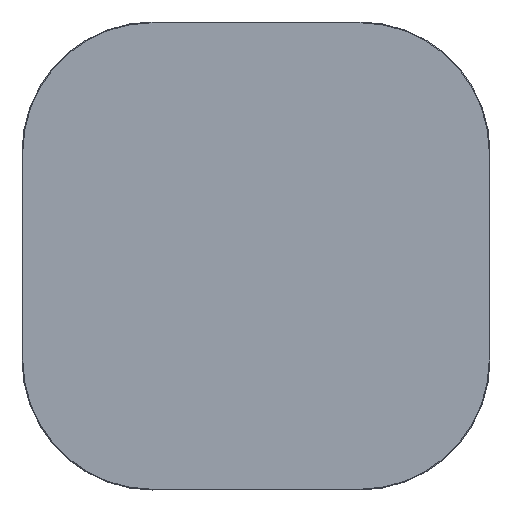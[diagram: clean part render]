
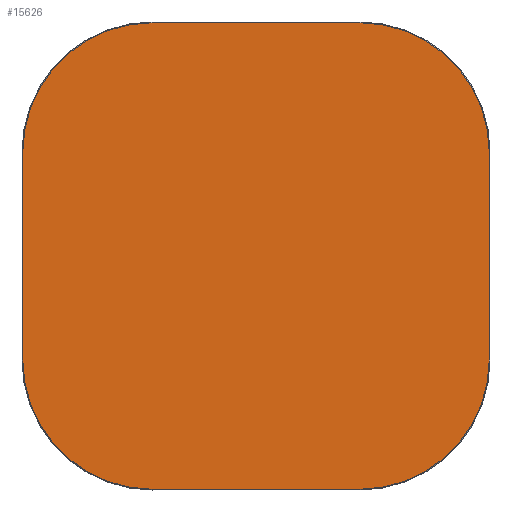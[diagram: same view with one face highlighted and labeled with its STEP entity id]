
A CAD part, top view. The second image highlights one B-rep face of the part: STEP entity #15626.
In plain terms, the highlighted planar face has unit normal (0, 0, 1).
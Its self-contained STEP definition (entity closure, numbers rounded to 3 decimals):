
#15551=CARTESIAN_POINT('',(0.,0.,20.));
#15552=DIRECTION('',(1.,0.,0.));
#15553=DIRECTION('',(0.,0.,1.));
#15554=AXIS2_PLACEMENT_3D('',#15551,#15553,#15552);
#15555=PLANE('',#15554);
#15556=CARTESIAN_POINT('',(-200.,-448.5,20.));
#15557=VERTEX_POINT('',#15556);
#15558=CARTESIAN_POINT('',(200.,-448.5,20.));
#15559=VERTEX_POINT('',#15558);
#15560=CARTESIAN_POINT('',(-200.,-448.5,20.));
#15561=DIRECTION('',(1.,0.,0.));
#15562=VECTOR('',#15561,400.);
#15563=LINE('',#15560,#15562);
#15564=EDGE_CURVE('',#15557,#15559,#15563,.T.);
#15565=ORIENTED_EDGE('E105',*,*,#15564,.T.);
#15566=CARTESIAN_POINT('',(448.5,-200.,20.));
#15567=VERTEX_POINT('',#15566);
#15568=CARTESIAN_POINT('',(200.,-200.,20.));
#15569=DIRECTION('',(0.,-1.,0.));
#15570=DIRECTION('',(0.,0.,1.));
#15571=AXIS2_PLACEMENT_3D('',#15568,#15570,#15569);
#15572=CIRCLE('',#15571,248.5);
#15573=EDGE_CURVE('',#15559,#15567,#15572,.T.);
#15574=ORIENTED_EDGE('E107',*,*,#15573,.T.);
#15575=CARTESIAN_POINT('',(448.5,200.,20.));
#15576=VERTEX_POINT('',#15575);
#15577=CARTESIAN_POINT('',(448.5,-200.,20.));
#15578=DIRECTION('',(0.,1.,0.));
#15579=VECTOR('',#15578,400.);
#15580=LINE('',#15577,#15579);
#15581=EDGE_CURVE('',#15567,#15576,#15580,.T.);
#15582=ORIENTED_EDGE('E109',*,*,#15581,.T.);
#15583=CARTESIAN_POINT('',(200.,448.5,20.));
#15584=VERTEX_POINT('',#15583);
#15585=CARTESIAN_POINT('',(200.,200.,20.));
#15586=DIRECTION('',(1.,0.,0.));
#15587=DIRECTION('',(0.,0.,1.));
#15588=AXIS2_PLACEMENT_3D('',#15585,#15587,#15586);
#15589=CIRCLE('',#15588,248.5);
#15590=EDGE_CURVE('',#15576,#15584,#15589,.T.);
#15591=ORIENTED_EDGE('E111',*,*,#15590,.T.);
#15592=CARTESIAN_POINT('',(-200.,448.5,20.));
#15593=VERTEX_POINT('',#15592);
#15594=CARTESIAN_POINT('',(200.,448.5,20.));
#15595=DIRECTION('',(-1.,0.,0.));
#15596=VECTOR('',#15595,400.);
#15597=LINE('',#15594,#15596);
#15598=EDGE_CURVE('',#15584,#15593,#15597,.T.);
#15599=ORIENTED_EDGE('E113',*,*,#15598,.T.);
#15600=CARTESIAN_POINT('',(-448.5,200.,20.));
#15601=VERTEX_POINT('',#15600);
#15602=CARTESIAN_POINT('',(-200.,200.,20.));
#15603=DIRECTION('',(0.,1.,0.));
#15604=DIRECTION('',(0.,0.,1.));
#15605=AXIS2_PLACEMENT_3D('',#15602,#15604,#15603);
#15606=CIRCLE('',#15605,248.5);
#15607=EDGE_CURVE('',#15593,#15601,#15606,.T.);
#15608=ORIENTED_EDGE('E115',*,*,#15607,.T.);
#15609=CARTESIAN_POINT('',(-448.5,-200.,20.));
#15610=VERTEX_POINT('',#15609);
#15611=CARTESIAN_POINT('',(-448.5,200.,20.));
#15612=DIRECTION('',(0.,-1.,0.));
#15613=VECTOR('',#15612,400.);
#15614=LINE('',#15611,#15613);
#15615=EDGE_CURVE('',#15601,#15610,#15614,.T.);
#15616=ORIENTED_EDGE('E117',*,*,#15615,.T.);
#15617=CARTESIAN_POINT('',(-200.,-200.,20.));
#15618=DIRECTION('',(-1.,0.,0.));
#15619=DIRECTION('',(-0.,0.,1.));
#15620=AXIS2_PLACEMENT_3D('',#15617,#15619,#15618);
#15621=CIRCLE('',#15620,248.5);
#15622=EDGE_CURVE('',#15610,#15557,#15621,.T.);
#15623=ORIENTED_EDGE('E119',*,*,#15622,.T.);
#15624=EDGE_LOOP('',(#15565,#15574,#15582,#15591,#15599,#15608,#15616,#15623));
#15625=FACE_OUTER_BOUND('',#15624,.T.);
#15626=ADVANCED_FACE('F2',(#15625),#15555,.T.);
